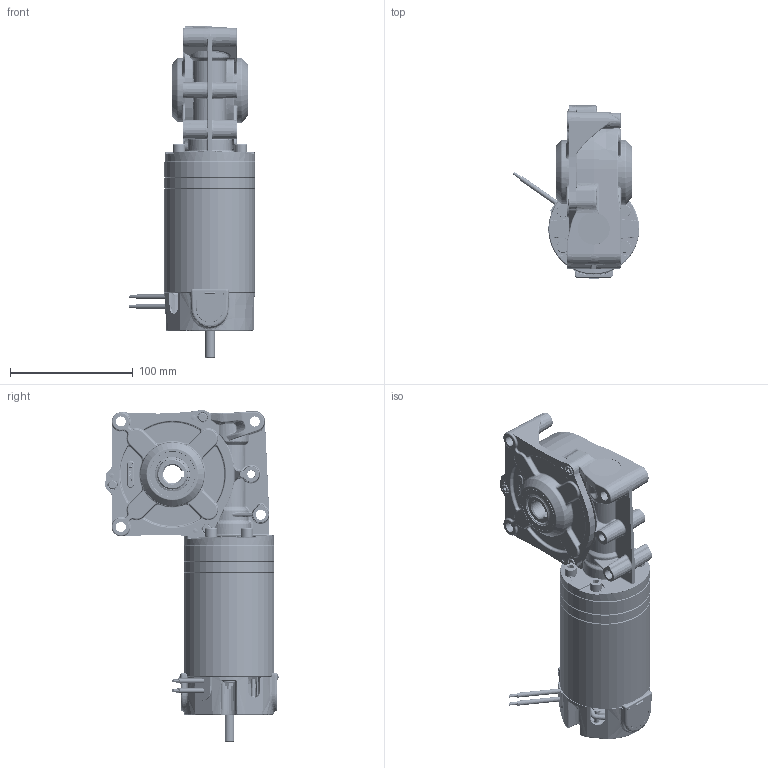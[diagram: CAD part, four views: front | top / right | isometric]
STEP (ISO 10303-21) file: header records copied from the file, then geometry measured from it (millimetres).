
FILE_DESCRIPTION (( 'STEP AP214' ), '1' );
FILE_NAME ('BRx70-40-GB12 (render model).STEP', '2023-12-14T16:46:18', ( '' ), ( '' ), 'SwSTEP 2.0', 'SolidWorks 2023', '' );
FILE_SCHEMA (( 'AUTOMOTIVE_DESIGN' ));
Length unit declared in the file: millimetre
Products named in the file (1): BRx70-40-GB12 (render model)
Bounding box: 102.93 x 141.46 x 270.55 mm (x, y, z)
Volume: 508802.5 mm3; surface area: 256566.7 mm2
Topology: 52 solids, 52 shells, 4115 faces, 9771 edges, 5731 vertices
Faces by surface type: cylinder 1135, bspline 992, plane 885, torus 529, cone 474, sphere 100
Entity records: 194015 total; most frequent: CARTESIAN_POINT 61051, ORIENTED_EDGE 19188, DIRECTION 17306, EDGE_CURVE 9594, AXIS2_PLACEMENT_3D 7139, VERTEX_POINT 5731, EDGE_LOOP 4393, UNCERTAINTY_MEASURE_WITH_UNIT 4168
